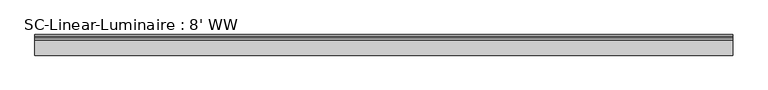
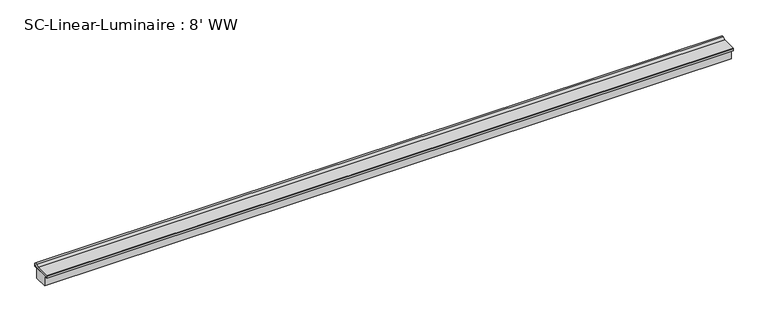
"""IFC4 building model written with IfcOpenShell, lengths in millimetres: light fixture geometry, SC-Linear-Luminaire : 8' WW."""

import ifcopenshell
import ifcopenshell.guid

model = None  # the IFC model being written
_history = None  # IfcOwnerHistory: only IFC2X3 demands one
_inside = {}  # id of a spatial element -> (the spatial element, [elements in it])
_under = {}  # id of a project, library or spatial element -> (it, [spatial elements below it])
_declared = {}  # id of a project -> (the project, [libraries it declares])
_typed = {}  # id of a type object -> (the type object, [elements of that type])
_made_of = {}  # id of a material, layer set ... -> (it, [elements and type objects made of it])


def new_model(schema):
    """Start an empty IFC model of exactly this schema.

    Asked for "IFC4X3", IfcOpenShell would pick the latest addendum, in which some entities
    have other attributes; the version numbers below select the first issue.
    IFC2X3 requires an IfcOwnerHistory on every rooted entity: one is made here for all.
    """
    global model, _history
    if schema == "IFC4X3":
        model = ifcopenshell.file(schema_version=(4, 3, 0, 0))
    else:
        model = ifcopenshell.file(schema=schema)
    _inside.clear()
    _under.clear()
    _declared.clear()
    _typed.clear()
    _made_of.clear()
    _history = None
    if model.schema == "IFC2X3":
        org = make("IfcOrganization", Name="unknown")
        user = make(
            "IfcPersonAndOrganization",
            ThePerson=make("IfcPerson", FamilyName="unknown"),
            TheOrganization=org,
        )
        app = make(
            "IfcApplication",
            ApplicationDeveloper=org,
            Version="unknown",
            ApplicationFullName="unknown",
            ApplicationIdentifier="unknown",
        )
        _history = make(
            "IfcOwnerHistory",
            OwningUser=user,
            OwningApplication=app,
            ChangeAction="ADDED",
            CreationDate=0,
        )
    return model


def make(cls, **values):
    """One entity of the class cls with the attributes given. An attribute that is None is left unset."""
    return model.create_entity(
        cls, **{name: value for name, value in values.items() if value is not None}
    )


def rooted(cls, **values):
    """An entity with a GlobalId (a new one), such as an element, a storey or a relation."""
    return make(cls, GlobalId=ifcopenshell.guid.new(), OwnerHistory=_history, **values)


def si_unit(unit_type, name, prefix=None):
    """IfcSIUnit, for example si_unit("LENGTHUNIT", "METRE", prefix="MILLI")."""
    return make("IfcSIUnit", UnitType=unit_type, Prefix=prefix, Name=name)


def assignment(units):
    """IfcUnitAssignment: the units of a project."""
    return None if units is None else make("IfcUnitAssignment", Units=units)


def point(xyz):
    """IfcCartesianPoint."""
    return None if xyz is None else make("IfcCartesianPoint", Coordinates=xyz)


def direction(xyz):
    """IfcDirection."""
    return None if xyz is None else make("IfcDirection", DirectionRatios=xyz)


def frame(location, z_axis=None, x_axis=None):
    """IfcAxis2Placement3D, a coordinate frame: its origin and axes. An axis left out is left unset."""
    return make(
        "IfcAxis2Placement3D",
        Location=point(location),
        Axis=direction(z_axis),
        RefDirection=direction(x_axis),
    )


def origin():
    """The frame at (0, 0, 0) with its axes left unset."""
    return frame((0.0, 0.0, 0.0))


def place(relative_to, where):
    """IfcLocalPlacement: puts the frame where relative to a parent placement (None: the world)."""
    return make(
        "IfcLocalPlacement", PlacementRelTo=relative_to, RelativePlacement=where
    )


def context(
    kind, dimensions, precision=None, world=None, true_north=None, identifier=None
):
    """IfcGeometricRepresentationContext, for example the 3D "Model" context."""
    return make(
        "IfcGeometricRepresentationContext",
        ContextIdentifier=identifier,
        ContextType=kind,
        CoordinateSpaceDimension=dimensions,
        Precision=precision,
        WorldCoordinateSystem=world,
        TrueNorth=true_north,
    )


def project(units=None, contexts=None):
    """IfcProject with its units and contexts."""
    return rooted(
        "IfcProject",
        Name="project",
        RepresentationContexts=contexts,
        UnitsInContext=assignment(units),
    )


def spatial(cls, under=None, at=None, **own):
    """A site, building, storey or space (cls), placed at a placement, below another one or the project."""
    s = rooted(cls, ObjectPlacement=at, **own)
    if under is not None:
        _under.setdefault(under.id(), (under, []))[1].append(s)
    return s


def polyline(points):
    """IfcPolyline through the points."""
    return make("IfcPolyline", Points=[point(p) for p in points])


def outline(outer, holes=None, kind="AREA"):
    """IfcArbitraryClosedProfileDef: a profile drawn as a closed curve; with holes, ...WithVoids."""
    if holes is None:
        return make("IfcArbitraryClosedProfileDef", ProfileType=kind, OuterCurve=outer)
    return make(
        "IfcArbitraryProfileDefWithVoids",
        ProfileType=kind,
        OuterCurve=outer,
        InnerCurves=holes,
    )


def extrude(swept, where, along, depth):
    """IfcExtrudedAreaSolid: the profile swept, set in the frame where, extruded along a direction by depth."""
    return make(
        "IfcExtrudedAreaSolid",
        SweptArea=swept,
        Position=where,
        ExtrudedDirection=direction(along),
        Depth=depth,
    )


def shape(context_of_items, identifier, shape_type, items):
    """IfcShapeRepresentation: the items that make up one representation, for example the "Body"."""
    return make(
        "IfcShapeRepresentation",
        ContextOfItems=context_of_items,
        RepresentationIdentifier=identifier,
        RepresentationType=shape_type,
        Items=items,
    )


def source(mapping_origin, context_of_items, identifier, shape_type, items):
    """IfcRepresentationMap: a shape defined once, which mapped items show again and again."""
    return make(
        "IfcRepresentationMap",
        MappingOrigin=mapping_origin,
        MappedRepresentation=shape(context_of_items, identifier, shape_type, items),
    )


def transform(
    local_origin,
    x_axis=None,
    y_axis=None,
    z_axis=None,
    scale=None,
    scale2=None,
    scale3=None,
    uniform=True,
):
    """IfcCartesianTransformationOperator3D, or its non-uniform kind. x_axis, y_axis, z_axis: its Axis1, 2, 3."""
    if uniform:
        return make(
            "IfcCartesianTransformationOperator3D",
            Axis1=direction(x_axis),
            Axis2=direction(y_axis),
            LocalOrigin=point(local_origin),
            Scale=scale,
            Axis3=direction(z_axis),
        )
    return make(
        "IfcCartesianTransformationOperator3DnonUniform",
        Axis1=direction(x_axis),
        Axis2=direction(y_axis),
        LocalOrigin=point(local_origin),
        Scale=scale,
        Axis3=direction(z_axis),
        Scale2=scale2,
        Scale3=scale3,
    )


def mapped(mapping_source, mapping_target):
    """IfcMappedItem: shows the shape of a source again, moved by a transform."""
    return make(
        "IfcMappedItem", MappingSource=mapping_source, MappingTarget=mapping_target
    )


def made_of(thing, what):
    """Note that an element or type object is made of a material, layer set ...; save() writes the relation."""
    if what is not None:
        _made_of.setdefault(what.id(), (what, []))[1].append(thing)
    return thing


def element(
    cls,
    number,
    at=None,
    inside=None,
    cuts=None,
    type_object=None,
    material=None,
    context=None,
    identifier="Body",
    shape_type=None,
    held_by="IfcProductDefinitionShape",
    body=None,
    shapes=None,
    **own,
):
    """One element of the class cls, such as IfcWall. Its Tag is "e" and its number.

    at: its placement. inside: the storey or other place that contains it. cuts: it is an
    opening in that element (IfcRelVoidsElement). A single representation is given by context,
    identifier, shape_type and body (its items); several are given by shapes. held_by: the class
    of the entity that holds the representations. save() writes the other relations.
    """
    e = rooted(cls, Tag="e%d" % number, ObjectPlacement=at, **own)
    if body is not None:
        shapes = [shape(context, identifier, shape_type, body)]
    if shapes is not None:
        e.Representation = make(held_by, Representations=shapes)
    if inside is not None:
        _inside.setdefault(inside.id(), (inside, []))[1].append(e)
    if cuts is not None:
        rooted(
            "IfcRelVoidsElement", RelatingBuildingElement=cuts, RelatedOpeningElement=e
        )
    if type_object is not None:
        _typed.setdefault(type_object.id(), (type_object, []))[1].append(e)
    return made_of(e, material)


def aggregate(whole, parts):
    """IfcRelAggregates: a whole, such as a stair, and the parts it consists of."""
    return rooted("IfcRelAggregates", RelatingObject=whole, RelatedObjects=parts)


def save(model, path):
    """Write the relations noted so far, then the file.

    IfcRelAggregates (storeys below a building ...), IfcRelContainedInSpatialStructure (elements
    in a storey), IfcRelDefinesByType, IfcRelAssociatesMaterial and IfcRelDeclares: one each for
    every whole, place, type object, material and project.
    """
    for whole, parts in _under.values():
        aggregate(whole, parts)
    for where, things in _inside.values():
        rooted(
            "IfcRelContainedInSpatialStructure",
            RelatedElements=things,
            RelatingStructure=where,
        )
    for kind, things in _typed.values():
        rooted("IfcRelDefinesByType", RelatedObjects=things, RelatingType=kind)
    for what, things in _made_of.values():
        rooted("IfcRelAssociatesMaterial", RelatedObjects=things, RelatingMaterial=what)
    for by, libraries in _declared.values():
        rooted("IfcRelDeclares", RelatingContext=by, RelatedDefinitions=libraries)
    model.write(path)


def sc_linear_luminaire_8_ww_71fdede2(model_context):
    return source(origin(), model_context, "Body", "SweptSolid", [
        extrude(outline(polyline([(33.02, 66.5757209), (29.845, 66.5757209), (29.845, 62.6426128), (-29.845, 62.6426128), (-29.845, 66.5757209), (-33.02, 66.5757209), (-33.02, 68.3937716), (15.3532116, 68.3937716), (21.7032116, 74.7437716), (29.3990509, 74.7437716), (33.02, 71.1228225), (33.02, 66.5757209)])), frame((-1117.6, 0.0, 0.0), z_axis=(1.0, 0.0, 0.0), x_axis=(0.0, 1.0, 0.0)), (0.0, 0.0, 1.0), 2235.2),
        extrude(outline(polyline([(33.02, 66.5757209), (33.02, 60.325), (22.225, 60.325), (22.225, 26.45), (-22.225, 26.45), (-22.225, 60.325), (-33.02, 60.325), (-33.02, 66.5757209), (-29.845, 66.5757209), (-29.845, 62.6426128), (29.845, 62.6426128), (29.845, 66.5757209), (33.02, 66.5757209)])), frame((-1117.6, 0.0, 0.0), z_axis=(1.0, 0.0, 0.0), x_axis=(0.0, 1.0, 0.0)), (0.0, 0.0, 1.0), 2235.2),
    ])


if __name__ == "__main__":
    model = new_model("IFC4")
    model_context = context("Model", 3, world=origin())
    ifc_project = project(units=[si_unit("LENGTHUNIT", "METRE", prefix="MILLI")], contexts=[model_context])
    site = spatial("IfcSite", under=ifc_project)
    building = spatial("IfcBuilding", under=site)
    placement = place(None, origin())
    sc_linear_luminaire_8_ww_shape = sc_linear_luminaire_8_ww_71fdede2(model_context)
    element("IfcLightFixture", 1, ObjectType="SC-Linear-Luminaire : 8' WW", at=placement, inside=building, context=model_context, shape_type="MappedRepresentation", body=[
        mapped(sc_linear_luminaire_8_ww_shape, transform((0.0, 0.0, 0.0), x_axis=(1.0, 0.0, 0.0), y_axis=(0.0, 1.0, 0.0), z_axis=(0.0, 0.0, 1.0))),
    ])
    save(model, "model.ifc")
